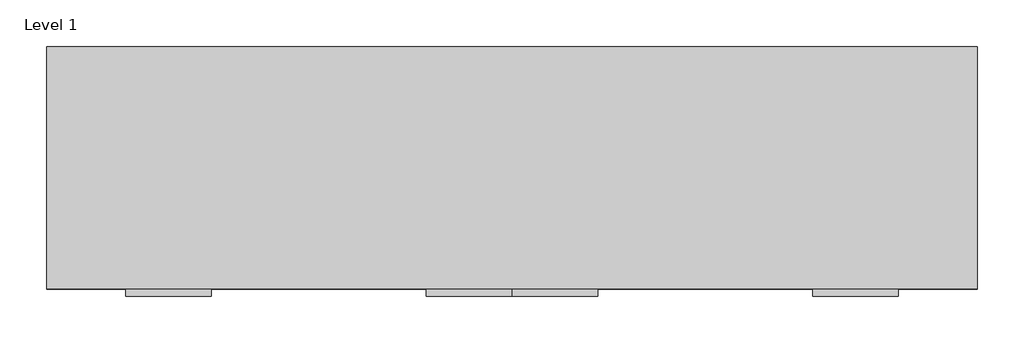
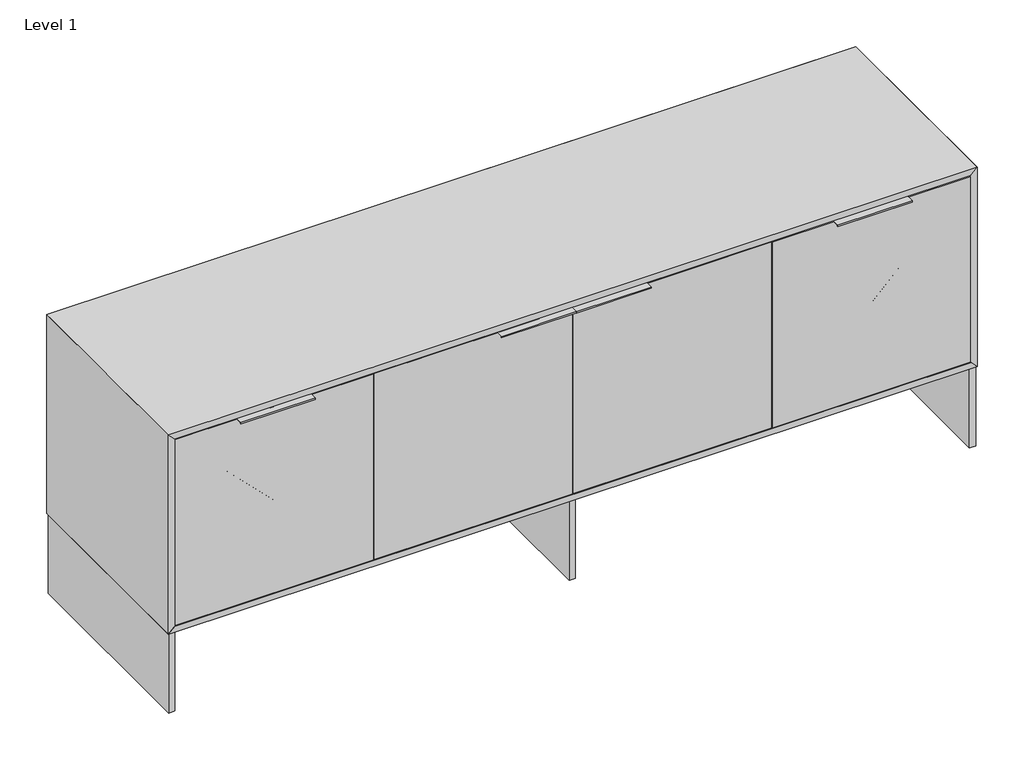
# One storey: 5 proxies.
"""IFC4 building model written with IfcOpenShell, lengths in millimetres."""

from ifc_helpers import new_model, si_unit, origin, place, context, project, spatial, transform, mapped, element, save
from components import generic_models_aee5ed7d, generic_models_be555cd0

model = new_model("IFC4")

# Units and contexts
model_context = context("Model", 3, world=origin())
ifc_project = project(units=[si_unit("LENGTHUNIT", "METRE", prefix="MILLI")], contexts=[model_context])

# Site, building, storey
site = spatial("IfcSite", under=ifc_project)
building = spatial("IfcBuilding", under=site)
storey = spatial("IfcBuildingStorey", under=building, Name="Level 1", Elevation=0.0)

# Proxies
placement = place(None, origin())
generic_models_shape = generic_models_aee5ed7d(model_context)
element("IfcBuildingElementProxy", 1, Name="HAFELE 106.04.06-3 FINISHES", ObjectType="HAFELE 106.04.06-3 FINISHES", at=placement, inside=storey, context=model_context, shape_type="MappedRepresentation", body=[
    mapped(generic_models_shape, transform((1220.390625, -615.95, 867.56875), x_axis=(1.0, 0.0, 0.0), y_axis=(0.0, 0.0, 1.0), z_axis=(0.0, -1.0, 0.0))),
])
element("IfcBuildingElementProxy", 2, Name="HAFELE 106.04.06-3 FINISHES", ObjectType="HAFELE 106.04.06-3 FINISHES", at=placement, inside=storey, context=model_context, shape_type="MappedRepresentation", body=[
    mapped(generic_models_shape, transform((2006.4182312, -615.95, 867.56875), x_axis=(1.0, 0.0, 0.0), y_axis=(0.0, 0.0, 1.0), z_axis=(0.0, -1.0, 0.0))),
])
element("IfcBuildingElementProxy", 3, Name="HAFELE 106.04.06-3 FINISHES", ObjectType="HAFELE 106.04.06-3 FINISHES", at=placement, inside=storey, context=model_context, shape_type="MappedRepresentation", body=[
    mapped(generic_models_shape, transform((207.9791687, -615.95, 867.56875), x_axis=(1.0, 0.0, 0.0), y_axis=(0.0, 0.0, 1.0), z_axis=(0.0, -1.0, 0.0))),
])
element("IfcBuildingElementProxy", 4, Name="HAFELE 106.04.06-3 FINISHES", ObjectType="HAFELE 106.04.06-3 FINISHES", at=placement, inside=storey, context=model_context, shape_type="MappedRepresentation", body=[
    mapped(generic_models_shape, transform((994.006775, -615.95, 867.56875), x_axis=(1.0, 0.0, 0.0), y_axis=(0.0, 0.0, 1.0), z_axis=(0.0, -1.0, 0.0))),
])
generic_models_2_shape = generic_models_be555cd0(model_context)
element("IfcBuildingElementProxy", 5, Name="ELEVATE^CREDENZA 35h_25x96 4 DOOR-PARTS SOLID", ObjectType="ELEVATE^CREDENZA 35h_25x96 4 DOOR-PARTS SOLID", at=placement, inside=storey, context=model_context, shape_type="MappedRepresentation", body=[
    mapped(generic_models_2_shape, transform((0.0, 0.0, 254.0), x_axis=(1.0, 0.0, 0.0), y_axis=(0.0, 0.0, 1.0), z_axis=(0.0, -1.0, 0.0))),
])

save(model, "model.ifc")
